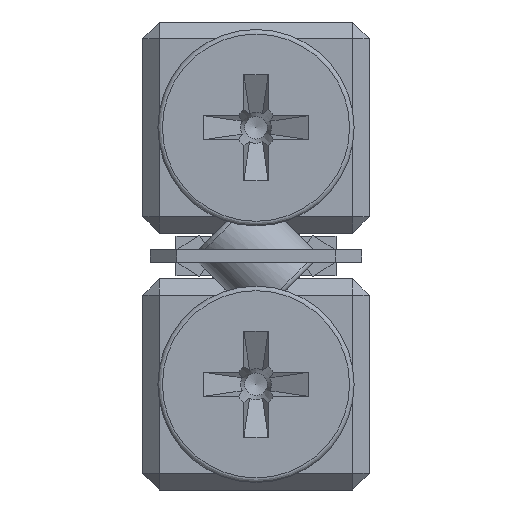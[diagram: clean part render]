
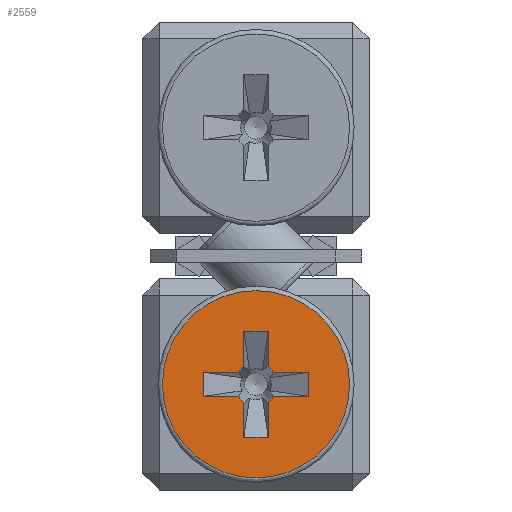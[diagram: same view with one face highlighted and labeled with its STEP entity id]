
A CAD part, left-side view. The second image highlights one B-rep face of the part: STEP entity #2559.
In plain terms, the highlighted planar face has unit normal (-1, 0, 0).
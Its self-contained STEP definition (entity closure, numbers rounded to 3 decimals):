
#63 = VERTEX_POINT ( 'NONE', #9786 ) ;
#266 = AXIS2_PLACEMENT_3D ( 'NONE', #2992, #6550, #2093 ) ;
#277 = EDGE_CURVE ( 'NONE', #4906, #63, #6745, .T. ) ;
#283 = DIRECTION ( 'NONE',  ( 0., 0., 1. ) ) ;
#481 = VECTOR ( 'NONE', #11215, 1000. ) ;
#587 = VERTEX_POINT ( 'NONE', #3800 ) ;
#597 = ORIENTED_EDGE ( 'NONE', *, *, #7305, .T. ) ;
#636 = DIRECTION ( 'NONE',  ( -1., 0., 0. ) ) ;
#700 = EDGE_CURVE ( 'NONE', #5160, #7711, #8578, .T. ) ;
#841 = ORIENTED_EDGE ( 'NONE', *, *, #6324, .F. ) ;
#895 = CARTESIAN_POINT ( 'NONE',  ( -102., 1.173, 7.8 ) ) ;
#1208 = VECTOR ( 'NONE', #6012, 1000. ) ;
#1212 = LINE ( 'NONE', #10206, #10592 ) ;
#1230 = CARTESIAN_POINT ( 'NONE',  ( -102., 0., 7. ) ) ;
#1336 = VERTEX_POINT ( 'NONE', #10957 ) ;
#1341 = CARTESIAN_POINT ( 'NONE',  ( -102., 1.173, 6.2 ) ) ;
#1373 = VECTOR ( 'NONE', #4099, 1000. ) ;
#1435 = CARTESIAN_POINT ( 'NONE',  ( -102., 6.5, 7. ) ) ;
#1441 = VECTOR ( 'NONE', #2602, 1000. ) ;
#1566 = CARTESIAN_POINT ( 'NONE',  ( -102., 0.8, 3.5 ) ) ;
#1783 = ORIENTED_EDGE ( 'NONE', *, *, #4823, .F. ) ;
#1858 = EDGE_LOOP ( 'NONE', ( #841, #7764, #2521, #9048, #2027, #6814, #9838, #7822, #1783, #3688, #9994, #6648, #8394, #597, #10412, #9427 ) ) ;
#2027 = ORIENTED_EDGE ( 'NONE', *, *, #2098, .F. ) ;
#2093 = DIRECTION ( 'NONE',  ( 0., 0., 1. ) ) ;
#2098 = EDGE_CURVE ( 'NONE', #4906, #587, #8643, .T. ) ;
#2179 = AXIS2_PLACEMENT_3D ( 'NONE', #1230, #11043, #3976 ) ;
#2201 = VECTOR ( 'NONE', #8755, 1000. ) ;
#2414 = CARTESIAN_POINT ( 'NONE',  ( -102., -0.8, 3.5 ) ) ;
#2421 = CARTESIAN_POINT ( 'NONE',  ( -102., -3.5, 6.2 ) ) ;
#2430 = PLANE ( 'NONE',  #3254 ) ;
#2521 = ORIENTED_EDGE ( 'NONE', *, *, #700, .F. ) ;
#2558 = EDGE_CURVE ( 'NONE', #9175, #9175, #8467, .T. ) ;
#2559 = ADVANCED_FACE ( 'NONE', ( #6756, #3319 ), #2430, .F. ) ;
#2602 = DIRECTION ( 'NONE',  ( 0., 1., 0. ) ) ;
#2632 = VERTEX_POINT ( 'NONE', #11323 ) ;
#2661 = VERTEX_POINT ( 'NONE', #9847 ) ;
#2668 = CARTESIAN_POINT ( 'NONE',  ( -102., 3.5, 7.8 ) ) ;
#2793 = EDGE_CURVE ( 'NONE', #2632, #6326, #7457, .T. ) ;
#2992 = CARTESIAN_POINT ( 'NONE',  ( -102., 0., 7. ) ) ;
#3061 = DIRECTION ( 'NONE',  ( -1., 0., 0. ) ) ;
#3212 = VECTOR ( 'NONE', #9662, 1000. ) ;
#3254 = AXIS2_PLACEMENT_3D ( 'NONE', #1435, #11388, #5066 ) ;
#3319 = FACE_BOUND ( 'NONE', #1858, .T. ) ;
#3600 = CARTESIAN_POINT ( 'NONE',  ( -102., -3.5, 6.2 ) ) ;
#3688 = ORIENTED_EDGE ( 'NONE', *, *, #11415, .T. ) ;
#3800 = CARTESIAN_POINT ( 'NONE',  ( -102., 0.8, 5.827 ) ) ;
#3816 = CARTESIAN_POINT ( 'NONE',  ( -102., 0., 0.8 ) ) ;
#3976 = DIRECTION ( 'NONE',  ( 0., 0., 1. ) ) ;
#4046 = VECTOR ( 'NONE', #283, 1000. ) ;
#4095 = CIRCLE ( 'NONE', #10610, 1.42 ) ;
#4099 = DIRECTION ( 'NONE',  ( 0., -1., 0. ) ) ;
#4380 = DIRECTION ( 'NONE',  ( 0., -1., 0. ) ) ;
#4507 = CARTESIAN_POINT ( 'NONE',  ( -102., 3.5, 7.8 ) ) ;
#4520 = VERTEX_POINT ( 'NONE', #11299 ) ;
#4823 = EDGE_CURVE ( 'NONE', #4520, #6517, #5733, .T. ) ;
#4905 = LINE ( 'NONE', #8509, #481 ) ;
#4906 = VERTEX_POINT ( 'NONE', #1341 ) ;
#5007 = VECTOR ( 'NONE', #10298, 1000. ) ;
#5066 = DIRECTION ( 'NONE',  ( 0., 0., -1. ) ) ;
#5160 = VERTEX_POINT ( 'NONE', #10797 ) ;
#5281 = EDGE_CURVE ( 'NONE', #5160, #587, #1212, .T. ) ;
#5486 = VERTEX_POINT ( 'NONE', #6348 ) ;
#5578 = CIRCLE ( 'NONE', #11568, 1.42 ) ;
#5584 = CARTESIAN_POINT ( 'NONE',  ( -102., -0.8, 10.5 ) ) ;
#5733 = CIRCLE ( 'NONE', #2179, 1.42 ) ;
#5749 = DIRECTION ( 'NONE',  ( 0., 0., -1. ) ) ;
#5806 = EDGE_LOOP ( 'NONE', ( #7645 ) ) ;
#5955 = LINE ( 'NONE', #4507, #1208 ) ;
#6012 = DIRECTION ( 'NONE',  ( 0., 0., -1. ) ) ;
#6324 = EDGE_CURVE ( 'NONE', #10273, #1336, #4095, .T. ) ;
#6326 = VERTEX_POINT ( 'NONE', #9304 ) ;
#6348 = CARTESIAN_POINT ( 'NONE',  ( -102., -0.8, 8.173 ) ) ;
#6349 = EDGE_CURVE ( 'NONE', #2661, #5486, #5578, .T. ) ;
#6473 = VERTEX_POINT ( 'NONE', #8023 ) ;
#6514 = DIRECTION ( 'NONE',  ( 0., 0., 1. ) ) ;
#6517 = VERTEX_POINT ( 'NONE', #895 ) ;
#6550 = DIRECTION ( 'NONE',  ( -1., 0., 0. ) ) ;
#6623 = DIRECTION ( 'NONE',  ( 0., 0., 1. ) ) ;
#6648 = ORIENTED_EDGE ( 'NONE', *, *, #10531, .T. ) ;
#6745 = LINE ( 'NONE', #2421, #5007 ) ;
#6756 = FACE_OUTER_BOUND ( 'NONE', #5806, .T. ) ;
#6814 = ORIENTED_EDGE ( 'NONE', *, *, #277, .T. ) ;
#6841 = VECTOR ( 'NONE', #5749, 1000. ) ;
#6915 = EDGE_CURVE ( 'NONE', #8636, #63, #5955, .T. ) ;
#7305 = EDGE_CURVE ( 'NONE', #2661, #9571, #4905, .T. ) ;
#7385 = DIRECTION ( 'NONE',  ( -1., 0., 0. ) ) ;
#7457 = LINE ( 'NONE', #5584, #10146 ) ;
#7645 = ORIENTED_EDGE ( 'NONE', *, *, #2558, .T. ) ;
#7711 = VERTEX_POINT ( 'NONE', #2414 ) ;
#7764 = ORIENTED_EDGE ( 'NONE', *, *, #9181, .T. ) ;
#7822 = ORIENTED_EDGE ( 'NONE', *, *, #8543, .T. ) ;
#8023 = CARTESIAN_POINT ( 'NONE',  ( -102., -3.5, 6.2 ) ) ;
#8204 = CARTESIAN_POINT ( 'NONE',  ( -102., 0., 7. ) ) ;
#8278 = AXIS2_PLACEMENT_3D ( 'NONE', #8441, #636, #10309 ) ;
#8394 = ORIENTED_EDGE ( 'NONE', *, *, #6349, .F. ) ;
#8441 = CARTESIAN_POINT ( 'NONE',  ( -102., 0., 7. ) ) ;
#8467 = CIRCLE ( 'NONE', #8278, 6.2 ) ;
#8509 = CARTESIAN_POINT ( 'NONE',  ( -102., 3.5, 7.8 ) ) ;
#8543 = EDGE_CURVE ( 'NONE', #8636, #6517, #9794, .T. ) ;
#8569 = DIRECTION ( 'NONE',  ( 0., 0., 1. ) ) ;
#8578 = LINE ( 'NONE', #1566, #1373 ) ;
#8636 = VERTEX_POINT ( 'NONE', #2668 ) ;
#8643 = CIRCLE ( 'NONE', #266, 1.42 ) ;
#8689 = EDGE_CURVE ( 'NONE', #6473, #9571, #10842, .T. ) ;
#8755 = DIRECTION ( 'NONE',  ( 0., 0., -1. ) ) ;
#8838 = CARTESIAN_POINT ( 'NONE',  ( -102., 0.8, 3.5 ) ) ;
#9048 = ORIENTED_EDGE ( 'NONE', *, *, #5281, .T. ) ;
#9175 = VERTEX_POINT ( 'NONE', #3816 ) ;
#9181 = EDGE_CURVE ( 'NONE', #10273, #7711, #11065, .T. ) ;
#9304 = CARTESIAN_POINT ( 'NONE',  ( -102., 0.8, 10.5 ) ) ;
#9427 = ORIENTED_EDGE ( 'NONE', *, *, #9911, .T. ) ;
#9512 = LINE ( 'NONE', #9632, #2201 ) ;
#9571 = VERTEX_POINT ( 'NONE', #11336 ) ;
#9632 = CARTESIAN_POINT ( 'NONE',  ( -102., -0.8, 10.5 ) ) ;
#9662 = DIRECTION ( 'NONE',  ( 0., 0., 1. ) ) ;
#9712 = LINE ( 'NONE', #8838, #3212 ) ;
#9786 = CARTESIAN_POINT ( 'NONE',  ( -102., 3.5, 6.2 ) ) ;
#9794 = LINE ( 'NONE', #11397, #11321 ) ;
#9838 = ORIENTED_EDGE ( 'NONE', *, *, #6915, .F. ) ;
#9847 = CARTESIAN_POINT ( 'NONE',  ( -102., -1.173, 7.8 ) ) ;
#9911 = EDGE_CURVE ( 'NONE', #6473, #1336, #10543, .T. ) ;
#9994 = ORIENTED_EDGE ( 'NONE', *, *, #2793, .F. ) ;
#10080 = CARTESIAN_POINT ( 'NONE',  ( -102., -3.5, 6.2 ) ) ;
#10129 = DIRECTION ( 'NONE',  ( 0., 1., 0. ) ) ;
#10146 = VECTOR ( 'NONE', #10129, 1000. ) ;
#10206 = CARTESIAN_POINT ( 'NONE',  ( -102., 0.8, 3.5 ) ) ;
#10273 = VERTEX_POINT ( 'NONE', #11486 ) ;
#10298 = DIRECTION ( 'NONE',  ( 0., 1., 0. ) ) ;
#10309 = DIRECTION ( 'NONE',  ( 0., 0., -1. ) ) ;
#10412 = ORIENTED_EDGE ( 'NONE', *, *, #8689, .F. ) ;
#10531 = EDGE_CURVE ( 'NONE', #2632, #5486, #9512, .T. ) ;
#10543 = LINE ( 'NONE', #3600, #1441 ) ;
#10592 = VECTOR ( 'NONE', #8569, 1000. ) ;
#10610 = AXIS2_PLACEMENT_3D ( 'NONE', #8204, #7385, #6514 ) ;
#10797 = CARTESIAN_POINT ( 'NONE',  ( -102., 0.8, 3.5 ) ) ;
#10842 = LINE ( 'NONE', #10080, #4046 ) ;
#10957 = CARTESIAN_POINT ( 'NONE',  ( -102., -1.173, 6.2 ) ) ;
#11043 = DIRECTION ( 'NONE',  ( -1., 0., 0. ) ) ;
#11060 = CARTESIAN_POINT ( 'NONE',  ( -102., 0., 7. ) ) ;
#11065 = LINE ( 'NONE', #11193, #6841 ) ;
#11193 = CARTESIAN_POINT ( 'NONE',  ( -102., -0.8, 10.5 ) ) ;
#11215 = DIRECTION ( 'NONE',  ( 0., -1., 0. ) ) ;
#11299 = CARTESIAN_POINT ( 'NONE',  ( -102., 0.8, 8.173 ) ) ;
#11321 = VECTOR ( 'NONE', #4380, 1000. ) ;
#11323 = CARTESIAN_POINT ( 'NONE',  ( -102., -0.8, 10.5 ) ) ;
#11336 = CARTESIAN_POINT ( 'NONE',  ( -102., -3.5, 7.8 ) ) ;
#11388 = DIRECTION ( 'NONE',  ( 1., 0., 0. ) ) ;
#11397 = CARTESIAN_POINT ( 'NONE',  ( -102., 3.5, 7.8 ) ) ;
#11415 = EDGE_CURVE ( 'NONE', #4520, #6326, #9712, .T. ) ;
#11486 = CARTESIAN_POINT ( 'NONE',  ( -102., -0.8, 5.827 ) ) ;
#11568 = AXIS2_PLACEMENT_3D ( 'NONE', #11060, #3061, #6623 ) ;
